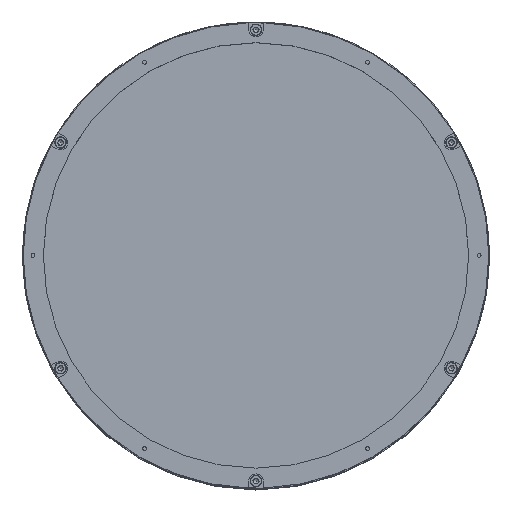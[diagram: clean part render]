
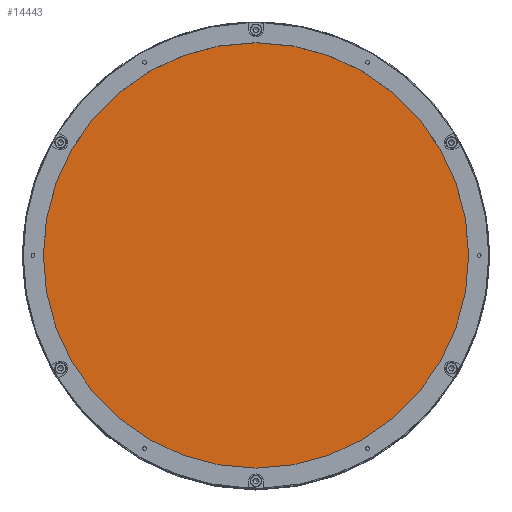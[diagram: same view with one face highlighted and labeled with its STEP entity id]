
A CAD part, top view. The second image highlights one B-rep face of the part: STEP entity #14443.
In plain terms, the highlighted planar face has unit normal (0, 0, 1).
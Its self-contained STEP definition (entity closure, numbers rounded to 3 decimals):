
#988 = DIRECTION ( 'NONE',  ( 0., 0., -1. ) ) ;
#6506 = PLANE ( 'NONE',  #14244 ) ;
#8149 = DIRECTION ( 'NONE',  ( -1., 0., 0. ) ) ;
#10756 = CARTESIAN_POINT ( 'NONE',  ( 0., 0., 353.802 ) ) ;
#12374 = DIRECTION ( 'NONE',  ( -1., 0., 0. ) ) ;
#14244 = AXIS2_PLACEMENT_3D ( 'NONE', #21042, #17836, #8149 ) ;
#14443 = ADVANCED_FACE ( 'NONE', ( #20536 ), #6506, .F. ) ;
#15524 = ORIENTED_EDGE ( 'NONE', *, *, #16092, .F. ) ;
#15688 = CARTESIAN_POINT ( 'NONE',  ( -82., 0., 353.802 ) ) ;
#16092 = EDGE_CURVE ( 'NONE', #20140, #20140, #20725, .T. ) ;
#17836 = DIRECTION ( 'NONE',  ( 0., 0., -1. ) ) ;
#19893 = EDGE_LOOP ( 'NONE', ( #15524 ) ) ;
#20140 = VERTEX_POINT ( 'NONE', #15688 ) ;
#20404 = AXIS2_PLACEMENT_3D ( 'NONE', #10756, #988, #12374 ) ;
#20536 = FACE_OUTER_BOUND ( 'NONE', #19893, .T. ) ;
#20725 = CIRCLE ( 'NONE', #20404, 82. ) ;
#21042 = CARTESIAN_POINT ( 'NONE',  ( 0., 0., 353.802 ) ) ;
